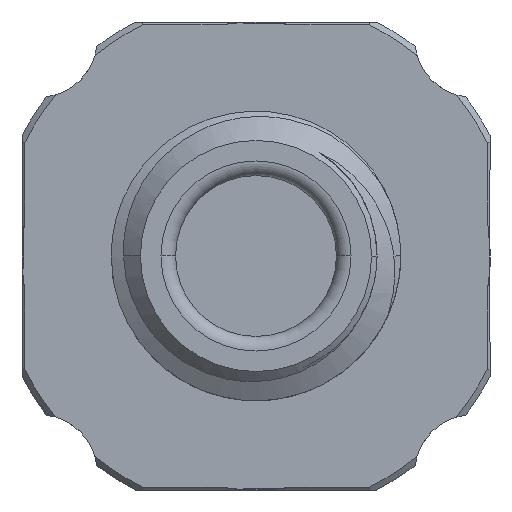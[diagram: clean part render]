
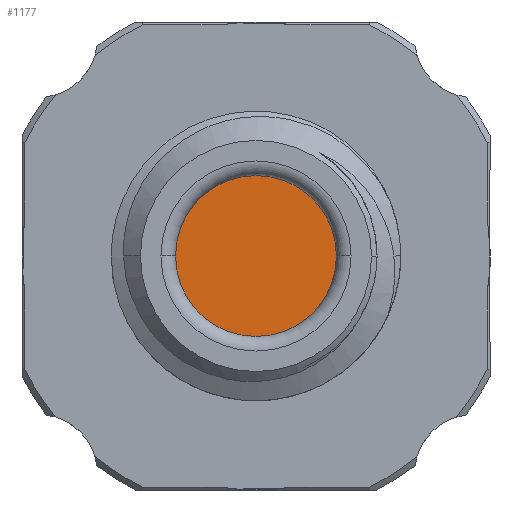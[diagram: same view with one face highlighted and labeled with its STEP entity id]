
A CAD part, front view. The second image highlights one B-rep face of the part: STEP entity #1177.
In plain terms, the highlighted planar face has unit normal (0, -1, 0).
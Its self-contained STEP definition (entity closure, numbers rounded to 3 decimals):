
#52 = DIRECTION ( 'NONE',  ( 1., 0., 0. ) ) ;
#145 = DIRECTION ( 'NONE',  ( 1., 0., 0. ) ) ;
#818 = AXIS2_PLACEMENT_3D ( 'NONE', #4669, #4700, #145 ) ;
#954 = DIRECTION ( 'NONE',  ( 0., 1., 0. ) ) ;
#1084 = CARTESIAN_POINT ( 'NONE',  ( -2.75, -16.18, 0. ) ) ;
#1177 = ADVANCED_FACE ( 'NONE', ( #2932 ), #2836, .T. ) ;
#1313 = EDGE_LOOP ( 'NONE', ( #4845, #4755 ) ) ;
#1826 = EDGE_CURVE ( 'NONE', #4386, #2977, #4161, .T. ) ;
#2042 = DIRECTION ( 'NONE',  ( 1., 0., 0. ) ) ;
#2738 = CIRCLE ( 'NONE', #5333, 2.75 ) ;
#2836 = PLANE ( 'NONE',  #818 ) ;
#2932 = FACE_OUTER_BOUND ( 'NONE', #1313, .T. ) ;
#2977 = VERTEX_POINT ( 'NONE', #4696 ) ;
#3850 = EDGE_CURVE ( 'NONE', #2977, #4386, #2738, .T. ) ;
#4161 = CIRCLE ( 'NONE', #5803, 2.75 ) ;
#4295 = CARTESIAN_POINT ( 'NONE',  ( 0., -16.18, 0. ) ) ;
#4386 = VERTEX_POINT ( 'NONE', #1084 ) ;
#4553 = CARTESIAN_POINT ( 'NONE',  ( 0., -16.18, 0. ) ) ;
#4669 = CARTESIAN_POINT ( 'NONE',  ( 0., -16.18, 0. ) ) ;
#4696 = CARTESIAN_POINT ( 'NONE',  ( 2.75, -16.18, 0. ) ) ;
#4700 = DIRECTION ( 'NONE',  ( 0., -1., 0. ) ) ;
#4755 = ORIENTED_EDGE ( 'NONE', *, *, #3850, .F. ) ;
#4783 = DIRECTION ( 'NONE',  ( 0., 1., 0. ) ) ;
#4845 = ORIENTED_EDGE ( 'NONE', *, *, #1826, .F. ) ;
#5333 = AXIS2_PLACEMENT_3D ( 'NONE', #4553, #954, #52 ) ;
#5803 = AXIS2_PLACEMENT_3D ( 'NONE', #4295, #4783, #2042 ) ;
